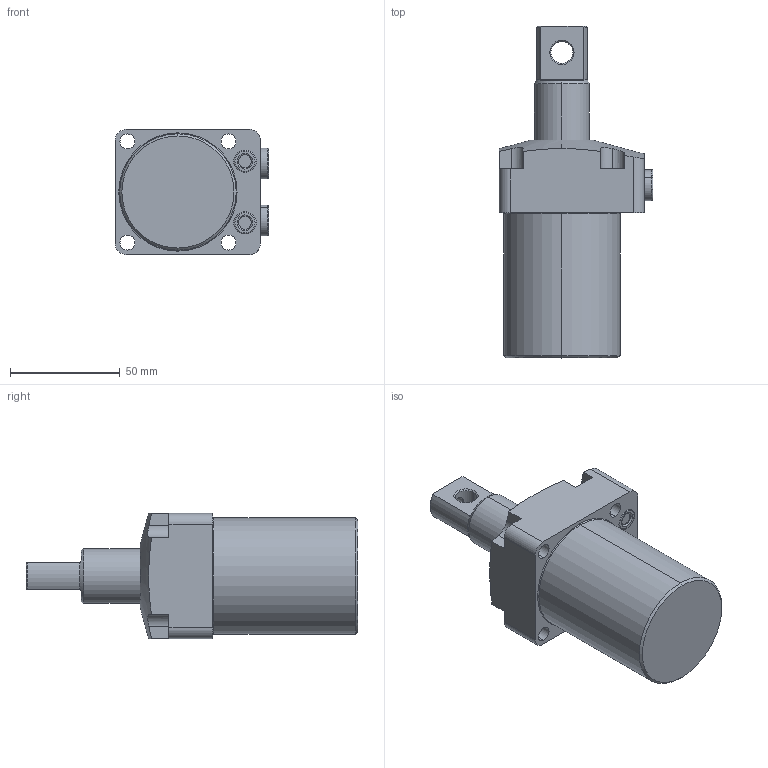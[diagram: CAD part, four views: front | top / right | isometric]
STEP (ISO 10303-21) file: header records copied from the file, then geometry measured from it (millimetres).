
FILE_DESCRIPTION(/* description */ (''),/* implementation_level */ '2;1');
FILE_NAME(/* name */ 'TRC06-P.stp',/* time_stamp */ '2025-01-04T09:17:14+08:00',/* author */ (''),/* organization */ (''),/* preprocessor_version */ 'ST-DEVELOPER v16.7',/* originating_system */ 'SIEMENS PLM Software NX 12.0',/* authorisation */ '');
FILE_SCHEMA (('AUTOMOTIVE_DESIGN { 1 0 10303 214 3 1 1 1 }'));
Length unit declared in the file: millimetre
Products named in the file (4): TRC06-P-03; TRC06-P-02; TRC06-P-01; TRC06-P_stp
Assembly tree (4 placements, depth 2):
  TRC06-P_stp
    TRC06-P-01
    TRC06-P-02
    TRC06-P-03  x2
Bounding box: 69.8 x 151 x 57 mm (x, y, z)
Volume: 259783.9 mm3; surface area: 36256.6 mm2
Topology: 4 solids, 6 shells, 171 faces, 397 edges, 250 vertices
Faces by surface type: cylinder 67, plane 56, cone 26, torus 22
Entity records: 4613 total; most frequent: CARTESIAN_POINT 972, DIRECTION 797, ORIENTED_EDGE 702, EDGE_CURVE 351, AXIS2_PLACEMENT_3D 329, VERTEX_POINT 222, EDGE_LOOP 175, CIRCLE 175
